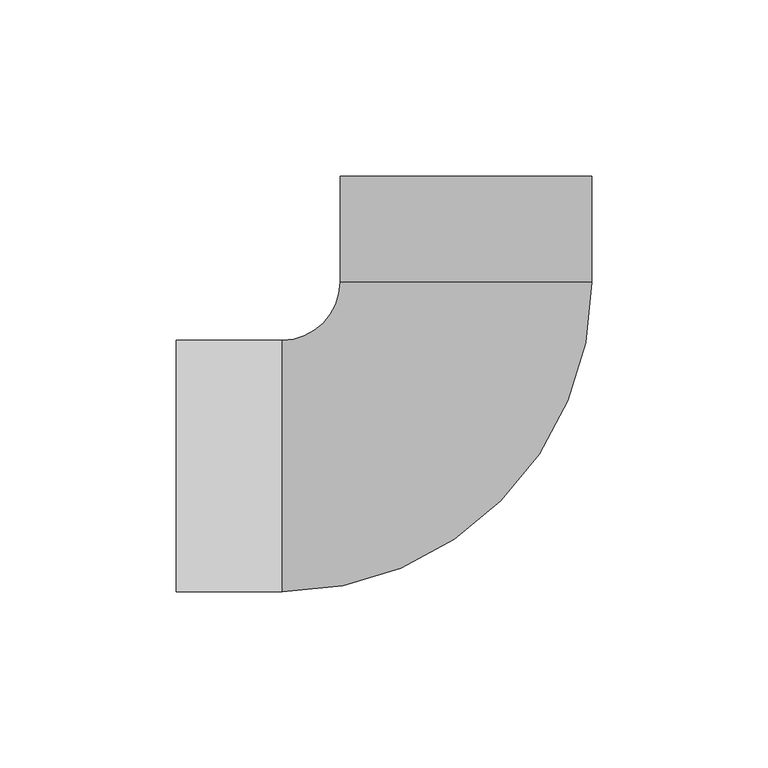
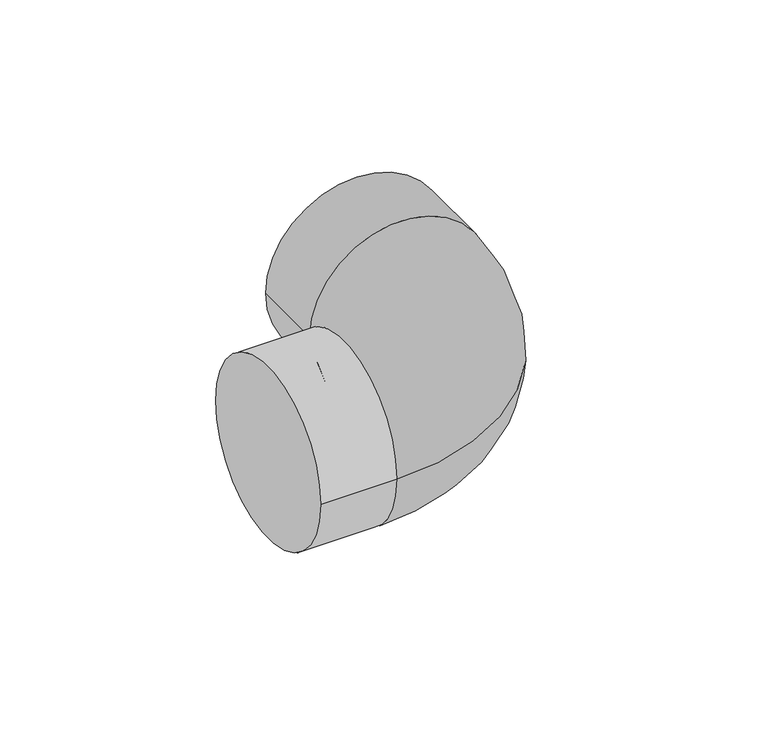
"""IFC4 building model written with IfcOpenShell, lengths in millimetres: pipe fitting geometry, 01101002 : Coudes à 90º."""

from ifc_helpers import new_model, si_unit, point, frame, origin, place, context, project, spatial, circle_curve, ellipse_curve, trimmed, source, transform, mapped, element, save
from ifc_brep_helpers import plane_surface, cylinder_surface, revolved_surface, advanced_brep


def pipe_fitting_808882fd(model_context):
    return source(origin(), model_context, "Body", "AdvancedBrep", [
        advanced_brep(
        [(-52.0, -35.625, 0.0), (35.625, 52.0, 0.0), (-35.625, 52.0, 0.0), (-52.0, 35.625, 0.0), (-35.625, 82.0, 0.0), (35.625, 82.0, 0.0), (-82.0, 35.625, 0.0), (-82.0, -35.625, 0.0)],
        [
            (0, 1, circle_curve(frame((-52.0, 52.0, 0.0), z_axis=(0.0, 0.0, 1.0), x_axis=(1.0, 0.0, 0.0)), 87.625)),
            (1, 2, circle_curve(frame((0.0, 52.0, 0.0), z_axis=(0.0, -1.0, 0.0), x_axis=(1.0, 0.0, 0.0)), 35.625)),
            (2, 3, circle_curve(frame((-52.0, 52.0, 0.0), z_axis=(0.0, 0.0, -1.0), x_axis=(1.0, 0.0, 0.0)), 16.375)),
            (3, 0, circle_curve(frame((-52.0, 0.0, 0.0), z_axis=(1.0, 0.0, 0.0), x_axis=(0.0, -1.0, 0.0)), 35.625)),
            (2, 1, circle_curve(frame((0.0, 52.0, 0.0), z_axis=(0.0, -1.0, 0.0), x_axis=(1.0, 0.0, 0.0)), 35.625)),
            (0, 3, circle_curve(frame((-52.0, 0.0, 0.0), z_axis=(1.0, 0.0, 0.0), x_axis=(0.0, -1.0, 0.0)), 35.625)),
            (4, 5, circle_curve(frame((0.0, 82.0, 0.0), z_axis=(0.0, 1.0, 0.0), x_axis=(1.0, 0.0, 0.0)), 35.625)),
            (5, 4, circle_curve(frame((0.0, 82.0, 0.0), z_axis=(0.0, 1.0, 0.0), x_axis=(1.0, 0.0, 0.0)), 35.625)),
            (6, 7, circle_curve(frame((-82.0, 0.0, 0.0), z_axis=(-1.0, 0.0, 0.0), x_axis=(0.0, -1.0, 0.0)), 35.625)),
            (7, 6, circle_curve(frame((-82.0, 0.0, 0.0), z_axis=(-1.0, 0.0, 0.0), x_axis=(0.0, -1.0, 0.0)), 35.625)),
            (3, 6),
            (7, 0),
            (4, 2),
            (1, 5),
        ],
        [
            revolved_surface(trimmed(ellipse_curve(frame((0.0, 52.0, 0.0), z_axis=(0.0, 1.0, 0.0), x_axis=(1.0, 0.0, 0.0)), 35.625, 35.625), [point((-35.625, 52.0, 0.0))], [point((35.625, 52.0, 0.0))], True, "CARTESIAN"), (-52.0, 52.0, 0.0), (0.0, 0.0, -1.0)),
            revolved_surface(trimmed(ellipse_curve(frame((0.0, 52.0, 0.0), z_axis=(0.0, 1.0, 0.0), x_axis=(1.0, 0.0, 0.0)), 35.625, 35.625), [point((35.625, 52.0, 0.0))], [point((-35.625, 52.0, 0.0))], True, "CARTESIAN"), (-52.0, 52.0, 0.0), (0.0, 0.0, -1.0)),
            plane_surface(frame((0.0, 82.0, 0.0), z_axis=(0.0, 1.0, 0.0), x_axis=(0.0, 0.0, 1.0))),
            plane_surface(frame((-82.0, 0.0, 0.0), z_axis=(-1.0, 0.0, 0.0), x_axis=(0.0, 0.0, 1.0))),
            cylinder_surface(frame((-52.0, 0.0, 0.0), z_axis=(1.0, 0.0, 0.0), x_axis=(0.0, -1.0, 0.0)), 35.625),
            cylinder_surface(frame((0.0, 82.0, 0.0), z_axis=(0.0, 1.0, 0.0), x_axis=(1.0, 0.0, 0.0)), 35.625),
        ],
        [
            (0, [[1, 2, 3, 4]]),
            (1, [[-3, 5, -1, 6]]),
            (2, [[7, 8]]),
            (3, [[9, 10]]),
            (4, [[-4, 11, -10, 12]]),
            (4, [[-6, -12, -9, -11]]),
            (5, [[-7, 13, -2, 14]]),
            (5, [[-8, -14, -5, -13]]),
        ],
    ),
    ])


if __name__ == "__main__":
    model = new_model("IFC4")
    model_context = context("Model", 3, world=origin())
    ifc_project = project(units=[si_unit("LENGTHUNIT", "METRE", prefix="MILLI")], contexts=[model_context])
    site = spatial("IfcSite", under=ifc_project)
    building = spatial("IfcBuilding", under=site)
    placement = place(None, origin())
    pipe_fitting_shape = pipe_fitting_808882fd(model_context)
    element("IfcPipeFitting", 1, ObjectType="01101002 : Coudes à 90º", at=placement, inside=building, context=model_context, shape_type="MappedRepresentation", body=[
        mapped(pipe_fitting_shape, transform((0.0, 0.0, 0.0), x_axis=(1.0, 0.0, 0.0), y_axis=(0.0, 1.0, 0.0), z_axis=(0.0, 0.0, 1.0))),
    ])
    save(model, "model.ifc")
